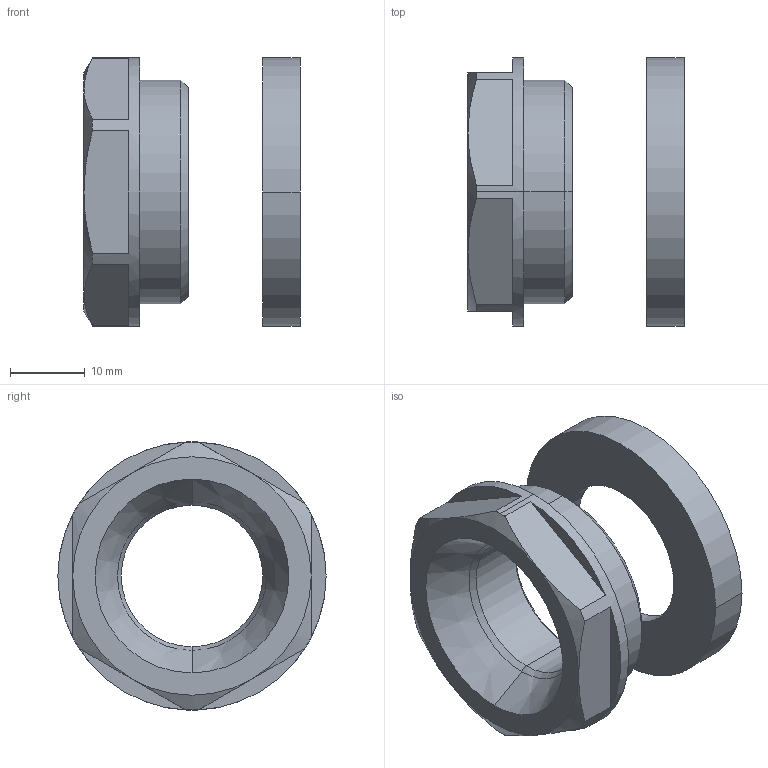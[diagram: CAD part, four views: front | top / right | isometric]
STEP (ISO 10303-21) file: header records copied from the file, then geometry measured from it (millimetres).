
FILE_DESCRIPTION((''),'2;1');
FILE_NAME('2050528763_ASM','2010-03-15T',('sdanet'),(''),'PRO/ENGINEER BY PARAMETRIC TECHNOLOGY CORPORATION, 2009300','PRO/ENGINEER BY PARAMETRIC TECHNOLOGY CORPORATION, 2009300','');
FILE_SCHEMA(('AUTOMOTIVE_DESIGN_CC2 { 1 2 10303 214 -1 1 5 2 }'));
Length unit declared in the file: millimetre
Products named in the file (4): 2050408633; 2050360103; 2050462013; 2050528763_ASM
Assembly tree (3 placements, depth 2):
  2050528763_ASM
    2050408633
    2050360103
    2050462013
Bounding box: 29 x 36 x 36 mm (x, y, z)
Volume: 8851.6 mm3; surface area: 6453.9 mm2
Topology: 2 solids, 3 shells, 50 faces, 120 edges, 76 vertices
Faces by surface type: plane 24, cylinder 14, cone 12
Entity records: 1647 total; most frequent: CARTESIAN_POINT 327, DIRECTION 284, ORIENTED_EDGE 236, EDGE_CURVE 120, AXIS2_PLACEMENT_3D 117, VERTEX_POINT 76, CIRCLE 58, EDGE_LOOP 56
